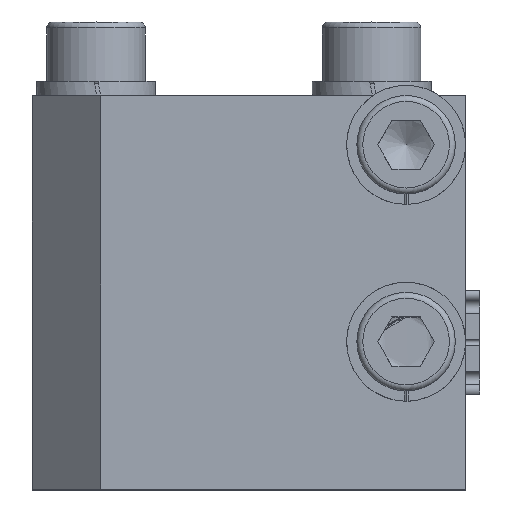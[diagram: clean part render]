
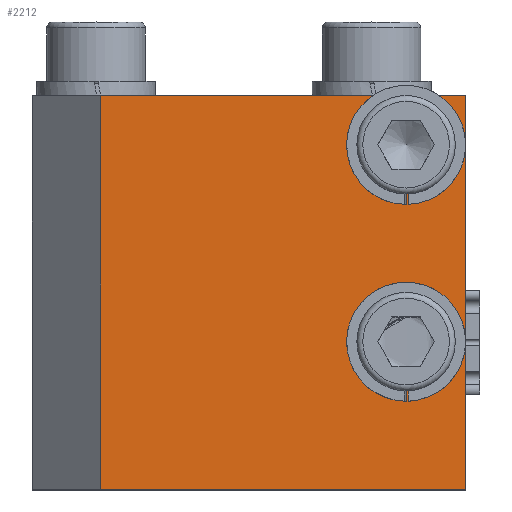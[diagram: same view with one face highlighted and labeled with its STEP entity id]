
A CAD part, top view. The second image highlights one B-rep face of the part: STEP entity #2212.
In plain terms, the highlighted planar face has unit normal (0, 0, 1).
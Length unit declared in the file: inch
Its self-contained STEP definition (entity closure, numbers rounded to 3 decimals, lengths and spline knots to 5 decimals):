
#130=FACE_BOUND('',#373,.T.);
#131=FACE_BOUND('',#374,.T.);
#147=PLANE('',#2493);
#250=FACE_OUTER_BOUND('',#372,.T.);
#372=EDGE_LOOP('',(#1543,#1544,#1545,#1546));
#373=EDGE_LOOP('',(#1547));
#374=EDGE_LOOP('',(#1548));
#511=LINE('',#3445,#692);
#512=LINE('',#3447,#693);
#513=LINE('',#3449,#694);
#514=LINE('',#3450,#695);
#692=VECTOR('',#2759,0.3937);
#693=VECTOR('',#2760,0.3937);
#694=VECTOR('',#2761,0.3937);
#695=VECTOR('',#2762,0.3937);
#871=CIRCLE('',#2488,0.14181);
#875=CIRCLE('',#2494,0.14181);
#980=VERTEX_POINT('',#3431);
#984=VERTEX_POINT('',#3443);
#985=VERTEX_POINT('',#3444);
#986=VERTEX_POINT('',#3446);
#987=VERTEX_POINT('',#3448);
#988=VERTEX_POINT('',#3451);
#1202=EDGE_CURVE('',#980,#980,#871,.T.);
#1208=EDGE_CURVE('',#984,#985,#511,.T.);
#1209=EDGE_CURVE('',#984,#986,#512,.T.);
#1210=EDGE_CURVE('',#986,#987,#513,.T.);
#1211=EDGE_CURVE('',#987,#985,#514,.T.);
#1212=EDGE_CURVE('',#988,#988,#875,.T.);
#1543=ORIENTED_EDGE('',*,*,#1208,.F.);
#1544=ORIENTED_EDGE('',*,*,#1209,.T.);
#1545=ORIENTED_EDGE('',*,*,#1210,.T.);
#1546=ORIENTED_EDGE('',*,*,#1211,.T.);
#1547=ORIENTED_EDGE('',*,*,#1212,.F.);
#1548=ORIENTED_EDGE('',*,*,#1202,.F.);
#2212=ADVANCED_FACE('',(#250,#130,#131),#147,.T.);
#2488=AXIS2_PLACEMENT_3D('',#3432,#2745,#2746);
#2493=AXIS2_PLACEMENT_3D('',#3442,#2757,#2758);
#2494=AXIS2_PLACEMENT_3D('',#3452,#2763,#2764);
#2745=DIRECTION('center_axis',(0.,0.,1.));
#2746=DIRECTION('ref_axis',(-1.,0.,0.));
#2757=DIRECTION('center_axis',(0.,0.,1.));
#2758=DIRECTION('ref_axis',(1.,0.,0.));
#2759=DIRECTION('',(0.,1.,0.));
#2760=DIRECTION('',(1.,0.,0.));
#2761=DIRECTION('',(0.,1.,0.));
#2762=DIRECTION('',(-1.,0.,0.));
#2763=DIRECTION('center_axis',(0.,0.,1.));
#2764=DIRECTION('ref_axis',(-1.,0.,0.));
#3431=CARTESIAN_POINT('',(0.77173,0.59055,1.27953));
#3432=CARTESIAN_POINT('Origin',(0.62992,0.59055,1.27953));
#3442=CARTESIAN_POINT('Origin',(0.,0.,1.27953));
#3443=CARTESIAN_POINT('',(-0.59055,-0.7874,1.27953));
#3444=CARTESIAN_POINT('',(-0.59055,0.7874,1.27953));
#3445=CARTESIAN_POINT('',(-0.59055,0.3937,1.27953));
#3446=CARTESIAN_POINT('',(0.86614,-0.7874,1.27953));
#3447=CARTESIAN_POINT('',(-0.86614,-0.7874,1.27953));
#3448=CARTESIAN_POINT('',(0.86614,0.7874,1.27953));
#3449=CARTESIAN_POINT('',(0.86614,-0.7874,1.27953));
#3450=CARTESIAN_POINT('',(0.86614,0.7874,1.27953));
#3451=CARTESIAN_POINT('',(0.77173,-0.19685,1.27953));
#3452=CARTESIAN_POINT('Origin',(0.62992,-0.19685,1.27953));
